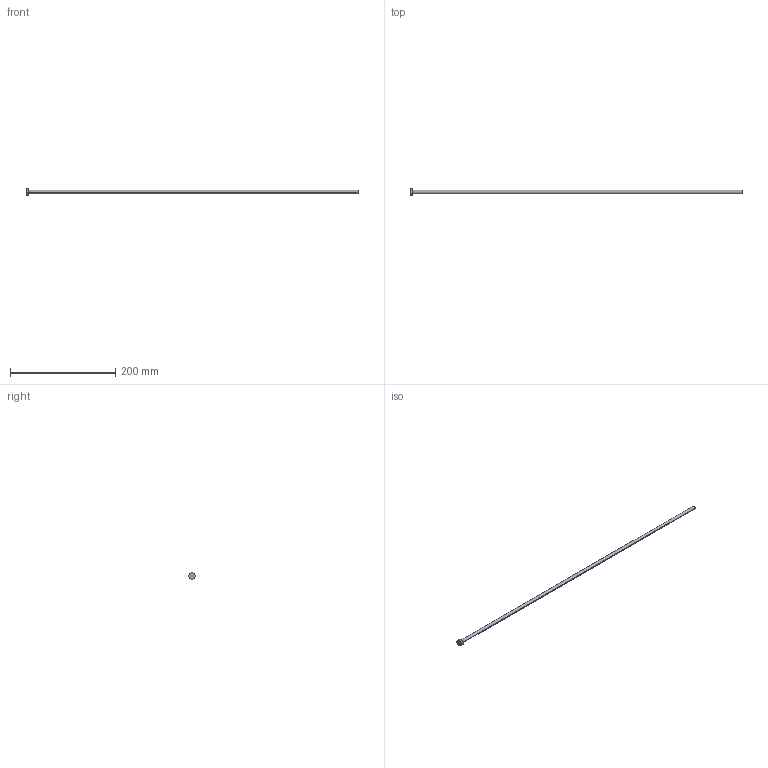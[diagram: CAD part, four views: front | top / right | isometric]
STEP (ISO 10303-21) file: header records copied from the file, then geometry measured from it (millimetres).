
FILE_DESCRIPTION (( 'STEP AP214' ), '1' );
FILE_NAME ('A-6,2x630.STEP', '2020-05-29T15:38:04', ( 'August' ), ( '' ), 'SwSTEP 2.0', 'SolidWorks 2018', '' );
FILE_SCHEMA (( 'AUTOMOTIVE_DESIGN' ));
Length unit declared in the file: millimetre
Products named in the file (1): A-6,2x630
Bounding box: 630 x 12 x 12 mm (x, y, z)
Volume: 19435.8 mm3; surface area: 12584.3 mm2
Topology: 1 solids, 1 shells, 9 faces, 16 edges, 10 vertices
Faces by surface type: cylinder 4, plane 3, torus 2
Entity records: 260 total; most frequent: DIRECTION 48, CARTESIAN_POINT 36, ORIENTED_EDGE 32, AXIS2_PLACEMENT_3D 22, EDGE_CURVE 16, CIRCLE 12, VERTEX_POINT 10, EDGE_LOOP 10
